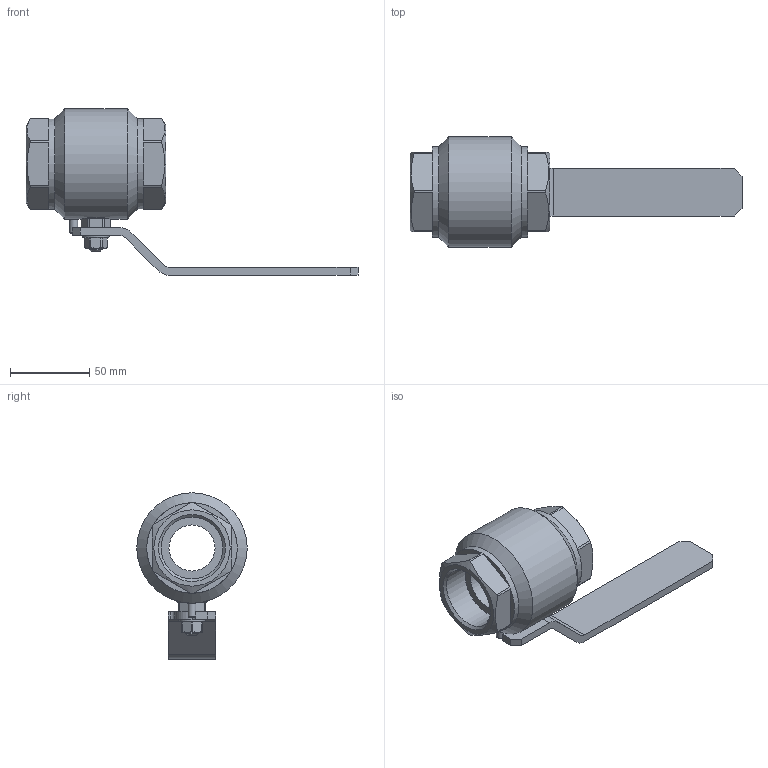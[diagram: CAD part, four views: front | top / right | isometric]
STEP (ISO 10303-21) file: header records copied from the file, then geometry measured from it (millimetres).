
FILE_DESCRIPTION(('STEP AP203'), '1');
FILE_NAME('ZARD 032.080.10.P.stp', '2013-12-06T06:08:13', ('Øèøêî'), ('Ýíåðïðåä ßðäîñ'), 'ASCON STEP Converter 1.3', 'Kompas 3D', '');
FILE_SCHEMA(('CONFIG_CONTROL_DESIGN','SUPPORT_RESOURCE_SCHEMA'));
Length unit declared in the file: millimetre
Products named in the file (1): 39
Bounding box: 209 x 69.5 x 104.75 mm (x, y, z)
Volume: 194778.7 mm3; surface area: 49975.3 mm2
Topology: 1 solids, 3 shells, 159 faces, 382 edges, 241 vertices
Faces by surface type: plane 97, cylinder 41, cone 20, torus 1
Full cylindrical faces by diameter (mm): 5 x2, 8 x1, 10.7 x1, 10.917 x1, 12 x1, 12.1 x1, 19.8 x1, 20 x2, 29 x2, 38.952 x2, 48.4 x1, 57 x2, 69.5 x1
Entity records: 5992 total; most frequent: CARTESIAN_POINT 2128, DIRECTION 822, ORIENTED_EDGE 764, EDGE_CURVE 382, AXIS2_PLACEMENT_3D 312, VERTEX_POINT 241, LINE 198, VECTOR 198
